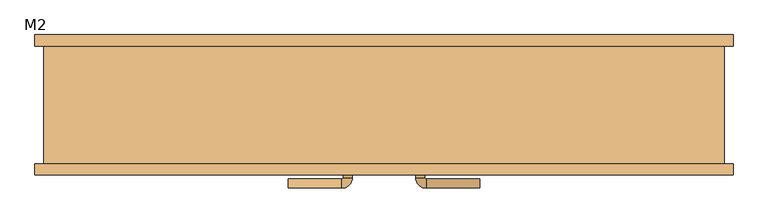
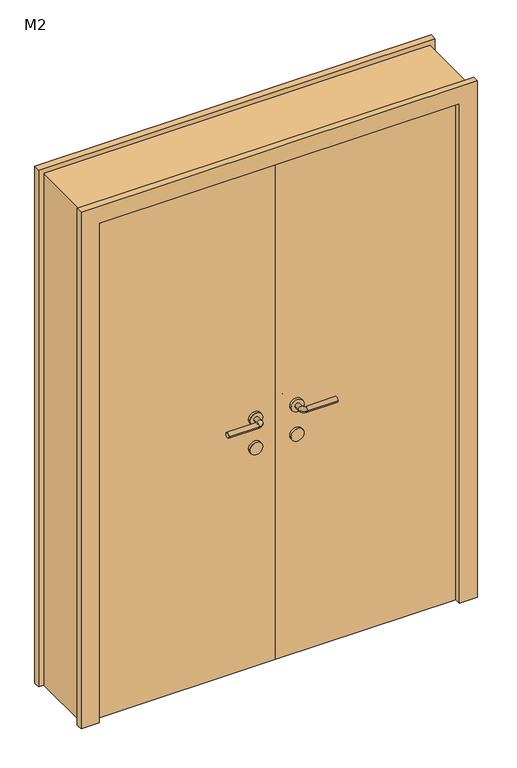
"""IFC4 building model written with IfcOpenShell, lengths in millimetres: door geometry, 双面嵌板木门 1 : M2."""

from ifc_helpers import new_model, si_unit, point, frame, frame_2d, origin, origin_with_axes, place, context, project, spatial, polyline, circle_curve, ellipse_curve, trimmed, segment, composite_curve, outline, extrude, source, transform, mapped, element, save
from ifc_brep_helpers import plane_surface, cylinder_surface, revolved_surface, advanced_brep


def m2_9ba113ef(model_context):
    return source(origin(), model_context, "Body", "SolidModel", [
        extrude(outline(composite_curve([segment(trimmed(circle_curve(frame_2d((900.0, 80.0)), 25.0), [point((900.0, 105.0))], [point((900.0, 55.0))], False, "CARTESIAN"), True, "CONTINUOUS"), segment(trimmed(circle_curve(frame_2d((900.0, 80.0)), 25.0), [point((900.0, 55.0))], [point((900.0, 105.0))], False, "CARTESIAN"), True, "CONTINUOUS")], self_intersect=False)), frame((0.0, -140.0, 0.0), z_axis=(0.0, 1.0, 0.0), x_axis=(0.0, 0.0, 1.0)), (0.0, 0.0, 1.0), 10.0),
        extrude(outline(composite_curve([segment(trimmed(circle_curve(frame_2d((900.0, 80.0)), 25.0), [point((900.0, 105.0))], [point((900.0, 55.0))], False, "CARTESIAN"), True, "CONTINUOUS"), segment(trimmed(circle_curve(frame_2d((900.0, 80.0)), 25.0), [point((900.0, 55.0))], [point((900.0, 105.0))], False, "CARTESIAN"), True, "CONTINUOUS")], self_intersect=False)), frame((0.0, -90.0, 0.0), z_axis=(0.0, 1.0, 0.0), x_axis=(0.0, 0.0, 1.0)), (0.0, 0.0, 1.0), 10.0),
        advanced_brep(
        [(70.0, -140.0, 1020.0), (90.0, -140.0, 1020.0), (90.0, -160.6133551, 1020.0), (70.0, -160.6133551, 1020.0), (211.580964, -183.580964, 1020.0), (211.580964, -163.580964, 1020.0), (92.9676089, -163.580964, 1020.0), (92.9676089, -183.580964, 1020.0)],
        [
            (0, 1, circle_curve(frame((80.0, -140.0, 1020.0), z_axis=(0.0, 1.0, 0.0), x_axis=(1.0, 0.0, 0.0)), 10.0)),
            (1, 0, circle_curve(frame((80.0, -140.0, 1020.0), z_axis=(0.0, 1.0, 0.0), x_axis=(1.0, 0.0, 0.0)), 10.0)),
            (1, 2),
            (2, 3, circle_curve(frame((80.0, -160.6133551, 1020.0), z_axis=(0.0, 1.0, 0.0), x_axis=(1.0, 0.0, 0.0)), 10.0)),
            (3, 0),
            (3, 2, circle_curve(frame((80.0, -160.6133551, 1020.0), z_axis=(0.0, 1.0, 0.0), x_axis=(1.0, 0.0, 0.0)), 10.0)),
            (4, 5, circle_curve(frame((211.580964, -173.580964, 1020.0), z_axis=(1.0, 0.0, 0.0), x_axis=(0.0, 1.0, 0.0)), 10.0)),
            (5, 4, circle_curve(frame((211.580964, -173.580964, 1020.0), z_axis=(1.0, 0.0, 0.0), x_axis=(0.0, 1.0, 0.0)), 10.0)),
            (6, 2, circle_curve(frame((92.9676089, -160.6133551, 1020.0), z_axis=(0.0, 0.0, -1.0), x_axis=(-1.0, 0.0, 0.0)), 2.9676089)),
            (3, 7, circle_curve(frame((92.9676089, -160.6133551, 1020.0), z_axis=(0.0, 0.0, 1.0), x_axis=(-1.0, 0.0, 0.0)), 22.9676089)),
            (7, 6, circle_curve(frame((92.9676089, -173.580964, 1020.0), z_axis=(-1.0, 0.0, 0.0), x_axis=(0.0, 1.0, 0.0)), 10.0)),
            (6, 7, circle_curve(frame((92.9676089, -173.580964, 1020.0), z_axis=(-1.0, 0.0, 0.0), x_axis=(0.0, 1.0, 0.0)), 10.0)),
            (7, 4),
            (5, 6),
        ],
        [
            plane_surface(frame((80.0, -140.0, 900.0), z_axis=(0.0, 1.0, 0.0), x_axis=(0.0, 0.0, 1.0))),
            cylinder_surface(frame((80.0, -140.0, 1020.0), z_axis=(0.0, 1.0, 0.0), x_axis=(1.0, 0.0, 0.0)), 10.0),
            plane_surface(frame((211.580964, -173.580964, 900.0), z_axis=(1.0, 0.0, 0.0), x_axis=(0.0, 0.0, 1.0))),
            revolved_surface(trimmed(ellipse_curve(frame((80.0, -160.6133551, 1020.0), z_axis=(0.0, 1.0, 0.0), x_axis=(1.0, 0.0, 0.0)), 10.0, 10.0), [point((70.0, -160.6133551, 1020.0))], [point((90.0, -160.6133551, 1020.0))], True, "CARTESIAN"), (92.9676089, -160.6133551, 900.0), (0.0, 0.0, 1.0)),
            revolved_surface(trimmed(ellipse_curve(frame((80.0, -160.6133551, 1020.0), z_axis=(0.0, 1.0, 0.0), x_axis=(1.0, 0.0, 0.0)), 10.0, 10.0), [point((90.0, -160.6133551, 1020.0))], [point((70.0, -160.6133551, 1020.0))], True, "CARTESIAN"), (92.9676089, -160.6133551, 900.0), (0.0, 0.0, 1.0)),
            cylinder_surface(frame((92.9676089, -173.580964, 1020.0), z_axis=(-1.0, 0.0, 0.0), x_axis=(0.0, 1.0, 0.0)), 10.0),
        ],
        [
            (0, [[1, 2]]),
            (1, [[-2, 3, 4, 5]]),
            (1, [[-1, -5, 6, -3]]),
            (2, [[7, 8]]),
            (3, [[9, -6, 10, 11]]),
            (4, [[-10, -4, -9, 12]]),
            (5, [[-11, 13, -8, 14]]),
            (5, [[-12, -14, -7, -13]]),
        ],
    ),
        extrude(outline(composite_curve([segment(trimmed(circle_curve(frame_2d((1020.0, 80.0)), 25.0), [point((1020.0, 105.0))], [point((1020.0, 55.0))], False, "CARTESIAN"), True, "CONTINUOUS"), segment(trimmed(circle_curve(frame_2d((1020.0, 80.0)), 25.0), [point((1020.0, 55.0))], [point((1020.0, 105.0))], False, "CARTESIAN"), True, "CONTINUOUS")], self_intersect=False)), frame((0.0, -140.0, 0.0), z_axis=(0.0, 1.0, 0.0), x_axis=(0.0, 0.0, 1.0)), (0.0, 0.0, 1.0), 10.0),
        advanced_brep(
        [(90.0, -80.0, 1020.0), (70.0, -80.0, 1020.0), (90.0, -59.386645, 1020.0), (70.0, -59.386645, 1020.0), (211.580964, -56.419036, 1020.0), (211.580964, -36.419036, 1020.0), (92.9676089, -36.419036, 1020.0), (92.9676089, -56.419036, 1020.0)],
        [
            (0, 1, circle_curve(frame((80.0, -80.0, 1020.0), z_axis=(0.0, -1.0, 0.0), x_axis=(-1.0, 0.0, 0.0)), 10.0)),
            (1, 0, circle_curve(frame((80.0, -80.0, 1020.0), z_axis=(0.0, -1.0, 0.0), x_axis=(-1.0, 0.0, 0.0)), 10.0)),
            (0, 2),
            (2, 3, circle_curve(frame((80.0, -59.386645, 1020.0), z_axis=(0.0, -1.0, 0.0), x_axis=(-1.0, 0.0, 0.0)), 10.0)),
            (3, 1),
            (3, 2, circle_curve(frame((80.0, -59.386645, 1020.0), z_axis=(0.0, -1.0, 0.0), x_axis=(-1.0, 0.0, 0.0)), 10.0)),
            (4, 5, circle_curve(frame((211.580964, -46.419036, 1020.0), z_axis=(1.0, 0.0, 0.0), x_axis=(0.0, 1.0, 0.0)), 10.0)),
            (5, 4, circle_curve(frame((211.580964, -46.419036, 1020.0), z_axis=(1.0, 0.0, 0.0), x_axis=(0.0, 1.0, 0.0)), 10.0)),
            (6, 3, circle_curve(frame((92.9676089, -59.386645, 1020.0), z_axis=(0.0, 0.0, 1.0), x_axis=(-1.0, 0.0, 0.0)), 22.9676089)),
            (2, 7, circle_curve(frame((92.9676089, -59.386645, 1020.0), z_axis=(0.0, 0.0, -1.0), x_axis=(-1.0, 0.0, 0.0)), 2.9676089)),
            (7, 6, circle_curve(frame((92.9676089, -46.419036, 1020.0), z_axis=(-1.0, 0.0, 0.0), x_axis=(0.0, 1.0, 0.0)), 10.0)),
            (6, 7, circle_curve(frame((92.9676089, -46.419036, 1020.0), z_axis=(-1.0, 0.0, 0.0), x_axis=(0.0, 1.0, 0.0)), 10.0)),
            (7, 4),
            (5, 6),
        ],
        [
            plane_surface(frame((80.0, -80.0, 900.0), z_axis=(0.0, -1.0, 0.0), x_axis=(0.0, 0.0, 1.0))),
            cylinder_surface(frame((80.0, -80.0, 1020.0), z_axis=(0.0, -1.0, 0.0), x_axis=(-1.0, 0.0, 0.0)), 10.0),
            plane_surface(frame((211.580964, -46.419036, 900.0), z_axis=(1.0, 0.0, 0.0), x_axis=(0.0, 0.0, 1.0))),
            revolved_surface(trimmed(ellipse_curve(frame((80.0, -59.386645, 1020.0), z_axis=(0.0, -1.0, 0.0), x_axis=(-1.0, 0.0, 0.0)), 10.0, 10.0), [point((90.0, -59.386645, 1020.0))], [point((70.0, -59.386645, 1020.0))], True, "CARTESIAN"), (92.9676089, -59.386645, 900.0), (0.0, 0.0, -1.0)),
            revolved_surface(trimmed(ellipse_curve(frame((80.0, -59.386645, 1020.0), z_axis=(0.0, -1.0, 0.0), x_axis=(-1.0, 0.0, 0.0)), 10.0, 10.0), [point((70.0, -59.386645, 1020.0))], [point((90.0, -59.386645, 1020.0))], True, "CARTESIAN"), (92.9676089, -59.386645, 900.0), (0.0, 0.0, -1.0)),
            cylinder_surface(frame((92.9676089, -46.419036, 1020.0), z_axis=(-1.0, 0.0, 0.0), x_axis=(0.0, 1.0, 0.0)), 10.0),
        ],
        [
            (0, [[1, 2]]),
            (1, [[-1, 3, 4, 5]]),
            (1, [[-2, -5, 6, -3]]),
            (2, [[7, 8]]),
            (3, [[9, -4, 10, 11]]),
            (4, [[-10, -6, -9, 12]]),
            (5, [[-11, 13, -8, 14]]),
            (5, [[-12, -14, -7, -13]]),
        ],
    ),
        extrude(outline(composite_curve([segment(trimmed(circle_curve(frame_2d((1020.0, 80.0)), 25.0), [point((1020.0, 105.0))], [point((1020.0, 55.0))], False, "CARTESIAN"), True, "CONTINUOUS"), segment(trimmed(circle_curve(frame_2d((1020.0, 80.0)), 25.0), [point((1020.0, 55.0))], [point((1020.0, 105.0))], False, "CARTESIAN"), True, "CONTINUOUS")], self_intersect=False)), frame((0.0, -90.0, 0.0), z_axis=(0.0, 1.0, 0.0), x_axis=(0.0, 0.0, 1.0)), (0.0, 0.0, 1.0), 10.0),
        extrude(outline(composite_curve([segment(trimmed(circle_curve(frame_2d((900.0, -80.0)), 25.0), [point((900.0, -105.0))], [point((900.0, -55.0))], False, "CARTESIAN"), True, "CONTINUOUS"), segment(trimmed(circle_curve(frame_2d((900.0, -80.0)), 25.0), [point((900.0, -55.0))], [point((900.0, -105.0))], False, "CARTESIAN"), True, "CONTINUOUS")], self_intersect=False)), frame((0.0, -140.0, 0.0), z_axis=(0.0, 1.0, 0.0), x_axis=(0.0, 0.0, 1.0)), (0.0, 0.0, 1.0), 10.0),
        extrude(outline(composite_curve([segment(trimmed(circle_curve(frame_2d((900.0, -80.0)), 25.0), [point((900.0, -105.0))], [point((900.0, -55.0))], False, "CARTESIAN"), True, "CONTINUOUS"), segment(trimmed(circle_curve(frame_2d((900.0, -80.0)), 25.0), [point((900.0, -55.0))], [point((900.0, -105.0))], False, "CARTESIAN"), True, "CONTINUOUS")], self_intersect=False)), frame((0.0, -90.0, 0.0), z_axis=(0.0, 1.0, 0.0), x_axis=(0.0, 0.0, 1.0)), (0.0, 0.0, 1.0), 10.0),
        advanced_brep(
        [(-70.0, -140.0, 1020.0), (-90.0, -140.0, 1020.0), (-70.0, -160.6133551, 1020.0), (-90.0, -160.6133551, 1020.0), (-211.580964, -183.580964, 1020.0), (-211.580964, -163.580964, 1020.0), (-92.9676089, -163.580964, 1020.0), (-92.9676089, -183.580964, 1020.0)],
        [
            (0, 1, circle_curve(frame((-80.0, -140.0, 1020.0), z_axis=(0.0, 1.0, 0.0), x_axis=(-1.0, 0.0, 0.0)), 10.0)),
            (1, 0, circle_curve(frame((-80.0, -140.0, 1020.0), z_axis=(0.0, 1.0, 0.0), x_axis=(-1.0, 0.0, 0.0)), 10.0)),
            (0, 2),
            (2, 3, circle_curve(frame((-80.0, -160.6133551, 1020.0), z_axis=(0.0, 1.0, 0.0), x_axis=(-1.0, 0.0, 0.0)), 10.0)),
            (3, 1),
            (3, 2, circle_curve(frame((-80.0, -160.6133551, 1020.0), z_axis=(0.0, 1.0, 0.0), x_axis=(-1.0, 0.0, 0.0)), 10.0)),
            (4, 5, circle_curve(frame((-211.580964, -173.580964, 1020.0), z_axis=(-1.0, 0.0, 0.0), x_axis=(0.0, 1.0, 0.0)), 10.0)),
            (5, 4, circle_curve(frame((-211.580964, -173.580964, 1020.0), z_axis=(-1.0, 0.0, 0.0), x_axis=(0.0, 1.0, 0.0)), 10.0)),
            (6, 7, circle_curve(frame((-92.9676089, -173.580964, 1020.0), z_axis=(1.0, 0.0, 0.0), x_axis=(0.0, 1.0, 0.0)), 10.0)),
            (7, 2, circle_curve(frame((-92.9676089, -160.6133551, 1020.0), z_axis=(0.0, 0.0, 1.0), x_axis=(1.0, 0.0, 0.0)), 22.9676089)),
            (3, 6, circle_curve(frame((-92.9676089, -160.6133551, 1020.0), z_axis=(0.0, 0.0, -1.0), x_axis=(1.0, 0.0, 0.0)), 2.9676089)),
            (7, 6, circle_curve(frame((-92.9676089, -173.580964, 1020.0), z_axis=(1.0, 0.0, 0.0), x_axis=(0.0, 1.0, 0.0)), 10.0)),
            (6, 5),
            (4, 7),
        ],
        [
            plane_surface(frame((-80.0, -140.0, 900.0), z_axis=(0.0, 1.0, 0.0), x_axis=(0.0, 0.0, 1.0))),
            cylinder_surface(frame((-80.0, -140.0, 1020.0), z_axis=(0.0, 1.0, 0.0), x_axis=(-1.0, 0.0, 0.0)), 10.0),
            plane_surface(frame((-211.580964, -173.580964, 900.0), z_axis=(-1.0, 0.0, 0.0), x_axis=(0.0, 0.0, 1.0))),
            revolved_surface(trimmed(ellipse_curve(frame((-80.0, -160.6133551, 1020.0), z_axis=(0.0, -1.0, 0.0), x_axis=(-1.0, 0.0, 0.0)), 10.0, 10.0), [point((-70.0, -160.6133551, 1020.0))], [point((-90.0, -160.6133551, 1020.0))], True, "CARTESIAN"), (-92.9676089, -160.6133551, 900.0), (0.0, 0.0, 1.0)),
            revolved_surface(trimmed(ellipse_curve(frame((-80.0, -160.6133551, 1020.0), z_axis=(0.0, -1.0, 0.0), x_axis=(-1.0, 0.0, 0.0)), 10.0, 10.0), [point((-90.0, -160.6133551, 1020.0))], [point((-70.0, -160.6133551, 1020.0))], True, "CARTESIAN"), (-92.9676089, -160.6133551, 900.0), (0.0, 0.0, 1.0)),
            cylinder_surface(frame((-92.9676089, -173.580964, 1020.0), z_axis=(1.0, 0.0, 0.0), x_axis=(0.0, 1.0, 0.0)), 10.0),
        ],
        [
            (0, [[1, 2]]),
            (1, [[3, 4, 5, -1]]),
            (1, [[-5, 6, -3, -2]]),
            (2, [[7, 8]]),
            (3, [[9, 10, -6, 11]]),
            (4, [[12, -11, -4, -10]]),
            (5, [[13, -7, 14, -9]]),
            (5, [[-14, -8, -13, -12]]),
        ],
    ),
        extrude(outline(composite_curve([segment(trimmed(circle_curve(frame_2d((1020.0, -80.0)), 25.0), [point((1020.0, -105.0))], [point((1020.0, -55.0))], False, "CARTESIAN"), True, "CONTINUOUS"), segment(trimmed(circle_curve(frame_2d((1020.0, -80.0)), 25.0), [point((1020.0, -55.0))], [point((1020.0, -105.0))], False, "CARTESIAN"), True, "CONTINUOUS")], self_intersect=False)), frame((0.0, -140.0, 0.0), z_axis=(0.0, 1.0, 0.0), x_axis=(0.0, 0.0, 1.0)), (0.0, 0.0, 1.0), 10.0),
        advanced_brep(
        [(-90.0, -80.0, 1020.0), (-70.0, -80.0, 1020.0), (-70.0, -59.386645, 1020.0), (-90.0, -59.386645, 1020.0), (-211.580964, -56.419036, 1020.0), (-211.580964, -36.419036, 1020.0), (-92.9676089, -36.419036, 1020.0), (-92.9676089, -56.419036, 1020.0)],
        [
            (0, 1, circle_curve(frame((-80.0, -80.0, 1020.0), z_axis=(0.0, -1.0, 0.0), x_axis=(1.0, 0.0, 0.0)), 10.0)),
            (1, 0, circle_curve(frame((-80.0, -80.0, 1020.0), z_axis=(0.0, -1.0, 0.0), x_axis=(1.0, 0.0, 0.0)), 10.0)),
            (1, 2),
            (2, 3, circle_curve(frame((-80.0, -59.386645, 1020.0), z_axis=(0.0, -1.0, 0.0), x_axis=(1.0, 0.0, 0.0)), 10.0)),
            (3, 0),
            (3, 2, circle_curve(frame((-80.0, -59.386645, 1020.0), z_axis=(0.0, -1.0, 0.0), x_axis=(1.0, 0.0, 0.0)), 10.0)),
            (4, 5, circle_curve(frame((-211.580964, -46.419036, 1020.0), z_axis=(-1.0, 0.0, 0.0), x_axis=(0.0, 1.0, 0.0)), 10.0)),
            (5, 4, circle_curve(frame((-211.580964, -46.419036, 1020.0), z_axis=(-1.0, 0.0, 0.0), x_axis=(0.0, 1.0, 0.0)), 10.0)),
            (6, 7, circle_curve(frame((-92.9676089, -46.419036, 1020.0), z_axis=(1.0, 0.0, 0.0), x_axis=(0.0, 1.0, 0.0)), 10.0)),
            (7, 3, circle_curve(frame((-92.9676089, -59.386645, 1020.0), z_axis=(0.0, 0.0, -1.0), x_axis=(1.0, 0.0, 0.0)), 2.9676089)),
            (2, 6, circle_curve(frame((-92.9676089, -59.386645, 1020.0), z_axis=(0.0, 0.0, 1.0), x_axis=(1.0, 0.0, 0.0)), 22.9676089)),
            (7, 6, circle_curve(frame((-92.9676089, -46.419036, 1020.0), z_axis=(1.0, 0.0, 0.0), x_axis=(0.0, 1.0, 0.0)), 10.0)),
            (6, 5),
            (4, 7),
        ],
        [
            plane_surface(frame((-80.0, -80.0, 900.0), z_axis=(0.0, -1.0, 0.0), x_axis=(0.0, 0.0, 1.0))),
            cylinder_surface(frame((-80.0, -80.0, 1020.0), z_axis=(0.0, -1.0, 0.0), x_axis=(1.0, 0.0, 0.0)), 10.0),
            plane_surface(frame((-211.580964, -46.419036, 900.0), z_axis=(-1.0, 0.0, 0.0), x_axis=(0.0, 0.0, 1.0))),
            revolved_surface(trimmed(ellipse_curve(frame((-80.0, -59.386645, 1020.0), z_axis=(0.0, 1.0, 0.0), x_axis=(1.0, 0.0, 0.0)), 10.0, 10.0), [point((-90.0, -59.386645, 1020.0))], [point((-70.0, -59.386645, 1020.0))], True, "CARTESIAN"), (-92.9676089, -59.386645, 900.0), (0.0, 0.0, -1.0)),
            revolved_surface(trimmed(ellipse_curve(frame((-80.0, -59.386645, 1020.0), z_axis=(0.0, 1.0, 0.0), x_axis=(1.0, 0.0, 0.0)), 10.0, 10.0), [point((-70.0, -59.386645, 1020.0))], [point((-90.0, -59.386645, 1020.0))], True, "CARTESIAN"), (-92.9676089, -59.386645, 900.0), (0.0, 0.0, -1.0)),
            cylinder_surface(frame((-92.9676089, -46.419036, 1020.0), z_axis=(1.0, 0.0, 0.0), x_axis=(0.0, 1.0, 0.0)), 10.0),
        ],
        [
            (0, [[1, 2]]),
            (1, [[3, 4, 5, -2]]),
            (1, [[-5, 6, -3, -1]]),
            (2, [[7, 8]]),
            (3, [[9, 10, -4, 11]]),
            (4, [[12, -11, -6, -10]]),
            (5, [[13, -7, 14, -9]]),
            (5, [[-14, -8, -13, -12]]),
        ],
    ),
        extrude(outline(composite_curve([segment(trimmed(circle_curve(frame_2d((1020.0, -80.0)), 25.0), [point((1020.0, -105.0))], [point((1020.0, -55.0))], False, "CARTESIAN"), True, "CONTINUOUS"), segment(trimmed(circle_curve(frame_2d((1020.0, -80.0)), 25.0), [point((1020.0, -55.0))], [point((1020.0, -105.0))], False, "CARTESIAN"), True, "CONTINUOUS")], self_intersect=False)), frame((0.0, -90.0, 0.0), z_axis=(0.0, 1.0, 0.0), x_axis=(0.0, 0.0, 1.0)), (0.0, 0.0, 1.0), 10.0),
        extrude(outline(polyline([(0.0, 770.0), (2120.0, 770.0), (2120.0, -770.0), (0.0, -770.0), (0.0, -700.0), (2050.0, -700.0), (2050.0, 700.0), (0.0, 700.0), (0.0, 770.0)])), frame((0.0, -155.0, 0.0), z_axis=(0.0, 1.0, 0.0), x_axis=(0.0, 0.0, 1.0)), (0.0, 0.0, 1.0), 25.0),
        extrude(outline(polyline([(2120.0, 770.0), (2120.0, -770.0), (0.0, -770.0), (0.0, -700.0), (2050.0, -700.0), (2050.0, 700.0), (0.0, 700.0), (0.0, 770.0), (2120.0, 770.0)])), frame((0.0, 130.0, 0.0), z_axis=(0.0, 1.0, 0.0), x_axis=(0.0, 0.0, 1.0)), (0.0, 0.0, 1.0), 25.0),
        extrude(outline(polyline([(700.0, -90.0), (700.0, -130.0), (0.0, -130.0), (0.0, -90.0), (700.0, -90.0)])), origin_with_axes(), (0.0, 0.0, 1.0), 2050.0),
        extrude(outline(polyline([(0.0, -90.0), (0.0, -130.0), (-700.0, -130.0), (-700.0, -90.0), (0.0, -90.0)])), origin_with_axes(), (0.0, 0.0, 1.0), 2050.0),
        extrude(outline(polyline([(2100.0, -750.0), (0.0, -750.0), (0.0, -700.0), (2050.0, -700.0), (2050.0, 700.0), (0.0, 700.0), (0.0, 750.0), (2100.0, 750.0), (2100.0, -750.0)])), frame((0.0, -130.0, 0.0), z_axis=(0.0, 1.0, 0.0), x_axis=(0.0, 0.0, 1.0)), (0.0, 0.0, 1.0), 260.0),
    ])


if __name__ == "__main__":
    model = new_model("IFC4")
    model_context = context("Model", 3, world=origin())
    ifc_project = project(units=[si_unit("LENGTHUNIT", "METRE", prefix="MILLI")], contexts=[model_context])
    site = spatial("IfcSite", under=ifc_project)
    building = spatial("IfcBuilding", under=site)
    placement = place(None, origin())
    m2_shape = m2_9ba113ef(model_context)
    element("IfcDoor", 1, ObjectType="双面嵌板木门 1 : M2", at=placement, inside=building, context=model_context, shape_type="MappedRepresentation", body=[
        mapped(m2_shape, transform((0.0, 0.0, 0.0), x_axis=(1.0, 0.0, 0.0), y_axis=(0.0, 1.0, 0.0), z_axis=(0.0, 0.0, 1.0))),
    ])
    save(model, "model.ifc")
